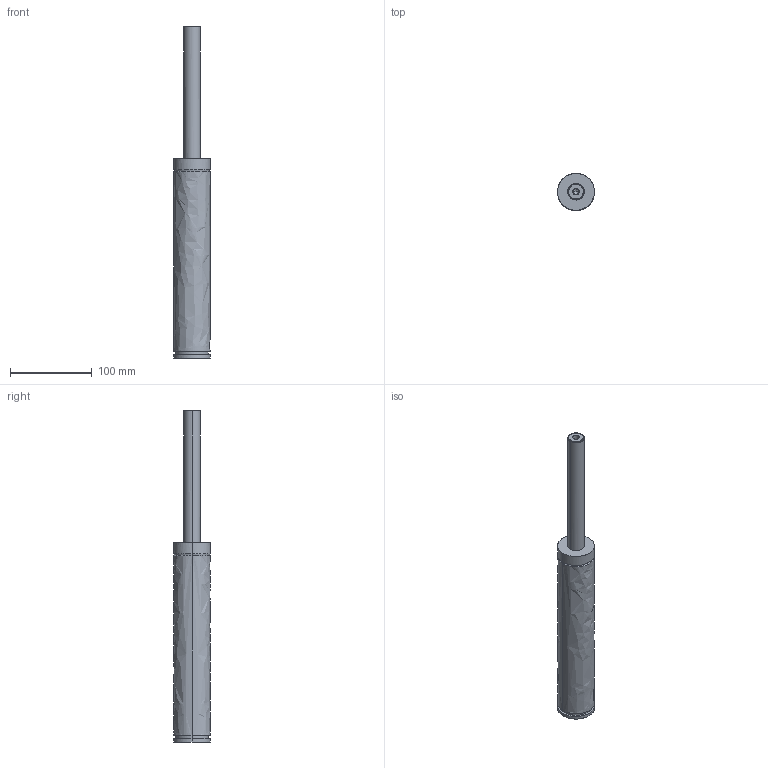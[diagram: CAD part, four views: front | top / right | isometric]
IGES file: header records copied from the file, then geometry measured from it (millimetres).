
Global section: file name: E:\UnigraphicsGraphicData\MISUMI_PRESS-PARTS\IGES\3d_gse45-160_03885_r00.igs; native system: NX V5.0; preprocessor: UGS NX IGES V5.0; author: MISUMI; date: 20110105.160757; units: millimetre
Bounding box: 45 x 45 x 405 mm (x, y, z)
Surface area: 49810.3 mm2 (no closed solid volume)
Topology: 0 solids, 0 shells, 57 faces, 450 edges, 448 vertices
Faces by surface type: bspline 57
